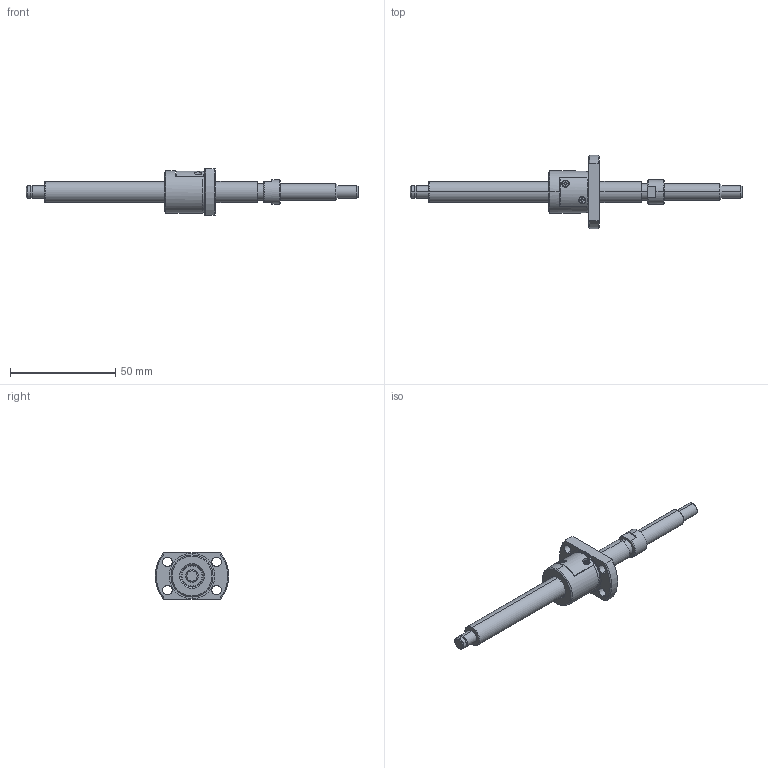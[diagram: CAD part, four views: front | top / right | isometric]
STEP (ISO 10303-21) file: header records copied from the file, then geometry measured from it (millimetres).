
FILE_DESCRIPTION (( 'STEP AP214' ), '1' );
FILE_NAME ('BS1002P-3D.STEP', '2014-03-05T15:17:12', ( '' ), ( '' ), 'SwSTEP 2.0', 'SolidWorks 2012', '' );
FILE_SCHEMA (( 'AUTOMOTIVE_DESIGN' ));
Length unit declared in the file: millimetre
Products named in the file (3): BS1002Pナット; BS1002PŽ²; BS1002P-3D
Assembly tree (2 placements, depth 2):
  BS1002P-3D
    BS1002PŽ²
    BS1002Pナット
Bounding box: 158 x 35 x 22 mm (x, y, z)
Volume: 17718.6 mm3; surface area: 8872.7 mm2
Topology: 2 solids, 2 shells, 141 faces, 338 edges, 216 vertices
Faces by surface type: plane 58, cylinder 57, cone 26
Entity records: 4396 total; most frequent: CARTESIAN_POINT 912, DIRECTION 740, ORIENTED_EDGE 676, EDGE_CURVE 338, AXIS2_PLACEMENT_3D 280, VERTEX_POINT 216, VECTOR 180, LINE 180
